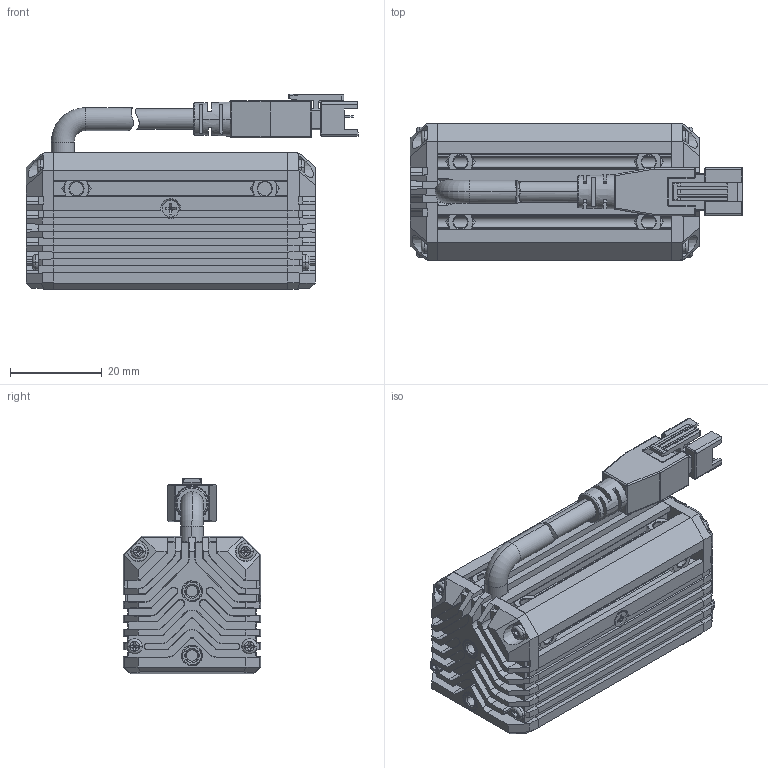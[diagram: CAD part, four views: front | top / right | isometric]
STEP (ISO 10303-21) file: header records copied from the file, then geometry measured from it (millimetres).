
FILE_DESCRIPTION((''),'2;1');
FILE_NAME('MV-LLDS-H-50-30-W-PL_ASM','2024-04-08T11:43:21',('huguozhe'),(''),'CREO PARAMETRIC BY PTC INC, 2020044','CREO PARAMETRIC BY PTC INC, 2020044','');
FILE_SCHEMA(('AUTOMOTIVE_DESIGN { 1 0 10303 214 1 1 1 1 }'));
Length unit declared in the file: millimetre
Products named in the file (15): DE-15-001252; DE-15-001251_ASM; DE-15-000451; DE-15-000450_ASM; DE-12-002271; TIP-M3X4-4_5X5-SO-ET-07061033; DE-12-002271_ASM; DE-12-001550; SC-KM2X6-BNI-GB819; XIANLAN_HEAD; CABLE_HEAD; CABLE_HEAD_ASM_ASM; 190100852; SC-PM2X6B-JMP; MV-LLDS-H-50-30-W-PL_ASM
Assembly tree (30 placements, depth 3):
  MV-LLDS-H-50-30-W-PL_ASM
    DE-15-001251_ASM
      DE-15-001252
    DE-15-000450_ASM
      DE-15-000451
    DE-12-002271_ASM  x2
      DE-12-002271
      TIP-M3X4-4_5X5-SO-ET-07061033
    DE-12-001550
    SC-KM2X6-BNI-GB819
    CABLE_HEAD_ASM_ASM
      XIANLAN_HEAD
      CABLE_HEAD
    190100852  x8
    SC-PM2X6B-JMP  x8
Bounding box: 72.3 x 30 x 42.65 mm (x, y, z)
Volume: 44845.1 mm3; surface area: 32646.8 mm2
Topology: 28 solids, 58 shells, 2621 faces, 6813 edges, 4303 vertices
Faces by surface type: plane 1254, cylinder 562, bspline 472, cone 280, torus 44, sphere 8, extrusion 1
Entity records: 46670 total; most frequent: CARTESIAN_POINT 10965, ORIENTED_EDGE 5944, DIRECTION 5688, EDGE_CURVE 2998, VECTOR 1938, LINE 1937, VERTEX_POINT 1921, AXIS2_PLACEMENT_3D 1875
